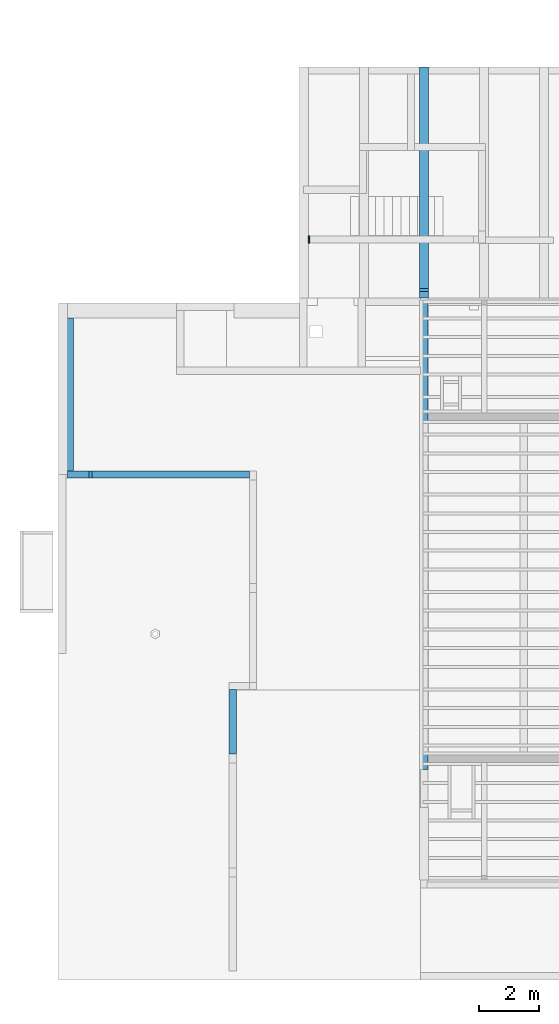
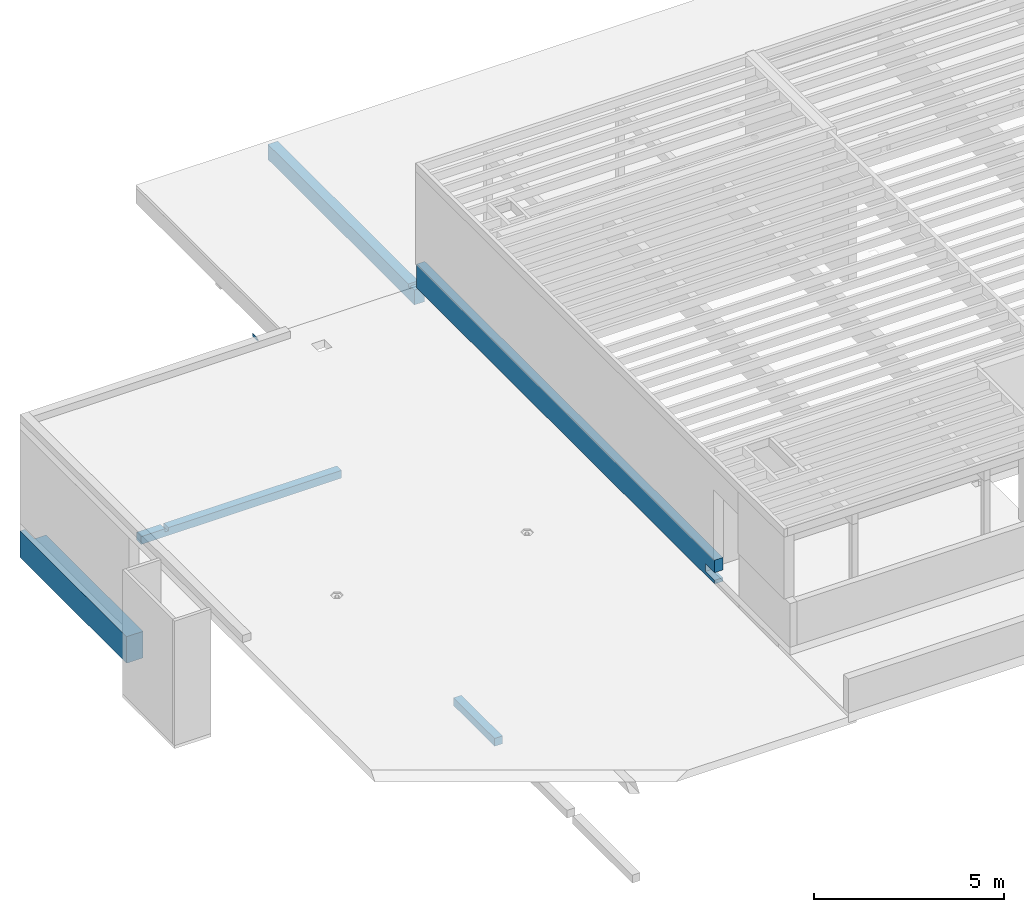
# One storey, part 6 of 14: 6 beams.
"""IFC2X3 building model written with IfcOpenShell, lengths in metres."""

from ifc_helpers import new_model, entity, si_unit, converted_unit, direction, frame, frame_2d, origin, place, context, subcontext, project, spatial, polyline, circle_curve, parameter, trimmed, segment, composite_curve, outline, extrude, faceted_brep, material, type_object, element, save


model = new_model("IFC2X3")

# Units and contexts
model_context = context("Model", 3, precision=1e-05, world=frame((30.086303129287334, 2.687674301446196, 462.0)), true_north=direction((0.19008937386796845, 0.9817667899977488)))
body_context = subcontext(model_context, "Body", "Model", "MODEL_VIEW")
ifc_project = project(units=[si_unit("LENGTHUNIT", "METRE"), si_unit("AREAUNIT", "SQUARE_METRE"), converted_unit("PLANEANGLEUNIT", "DEGREE", entity("IfcPlaneAngleMeasure", 0.017453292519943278), si_unit("PLANEANGLEUNIT", "RADIAN"), dimensions=[0, 0, 0, 0, 0, 0, 0]), si_unit("VOLUMEUNIT", "CUBIC_METRE")], contexts=[model_context])

# Site, building, storey
site_placement = place(None, origin())
site = spatial("IfcSite", under=ifc_project, at=site_placement, Name="Default", CompositionType="ELEMENT")
building_placement = place(site_placement, origin())
building = spatial("IfcBuilding", under=site, at=building_placement, CompositionType="ELEMENT")
storey_placement = place(building_placement, origin())
storey = spatial("IfcBuildingStorey", under=building, at=storey_placement, Name="FB_E00_OKFB", CompositionType="ELEMENT", Elevation=0.0)

# Beams
ifc_material_1 = material(Name="WS_CONCRETE_REINFORCED")
beam_type_1 = type_object("IfcBeamType", Name="WS_FDN_REC:FDN_REC_500x1100", PredefinedType="BEAM")
beam_1_placement = place(storey_placement, frame((37.9053379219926, -6.9246533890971, -0.32000000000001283), z_axis=(0.0, 0.0, 1.0), x_axis=(0.0, 1.0, 0.0)))
element("IfcBeam", 1, at=beam_1_placement, inside=storey, type_object=beam_type_1, material=ifc_material_1, Name="WS_FDN_REC:FDN_REC_500x1100", ObjectType="WS_FDN_REC:FDN_REC_500x1100", context=body_context, shape_type="Brep", body=[
    faceted_brep([(0.0, -0.5000000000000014, 0.8500000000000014), (0.0, -0.5000000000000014, 0.0), (5.095005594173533, -0.500000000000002, 0.0), (5.095005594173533, -0.500000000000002, 0.8500000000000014), (0.0, 0.0, 0.0), (5.595005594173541, 0.0, 0.0), (5.595005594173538, -0.14999999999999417, 0.0), (5.095005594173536, -0.14999999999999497, 0.0), (0.0, 0.0, 0.8500000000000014), (5.595005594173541, 0.0, 0.8500000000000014), (5.095005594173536, -0.14999999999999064, 0.8500000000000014), (5.595005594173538, -0.14999999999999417, 0.8500000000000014)], [[[0, 1, 2, 3]], [[1, 4, 5, 6, 7, 2]], [[8, 9, 5, 4]], [[1, 0, 8, 4]], [[8, 0, 3, 10, 11, 9]], [[5, 9, 11, 6]], [[10, 7, 6, 11]], [[7, 10, 3, 2]]]),
])
ifc_material_2 = material(Name="WS_TIMBER_GLT_0°")
beam_type_2 = type_object("IfcBeamType", Name="WS_TBM_GLT:TBM_GLT_300/480", PredefinedType="BEAM")
beam_2_placement = place(storey_placement, frame((49.955337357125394, -1.1696478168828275, 3.455), z_axis=(0.0, 0.0, 1.0), x_axis=(0.0, -1.0, 0.0)))
element("IfcBeam", 2, at=beam_2_placement, inside=storey, type_object=beam_type_2, material=ifc_material_2, Name="WS_TBM_GLT:TBM_GLT_300/480", ObjectType="WS_TBM_GLT:TBM_GLT_300/480", context=body_context, shape_type="Brep", body=[
    faceted_brep([(-7.699999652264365, 0.30000000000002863, 0.0), (-7.699999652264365, 0.0, 0.0), (-7.699999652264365, 0.0, 0.4799999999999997), (-7.699999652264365, 0.30000000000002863, 0.4799999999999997), (0.0, 0.3000000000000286, 0.0), (0.0, 0.3000000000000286, 0.4799999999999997), (0.0, 0.0, 0.4799999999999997), (0.0, 0.0, 0.0), (-0.3150000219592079, 0.0, 0.4799999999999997), (-0.31500002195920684, 0.30000000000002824, 0.48000000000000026), (-0.2150000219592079, 0.0, 0.48000000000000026), (-0.2150000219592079, 0.0, 0.3799999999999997), (-0.3150000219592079, 0.0, 0.3799999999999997), (-0.3150000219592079, 0.30000000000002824, 0.3799999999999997), (-0.2150000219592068, 0.30000000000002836, 0.3799999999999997), (-0.2150000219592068, 0.30000000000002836, 0.48000000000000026)], [[[0, 1, 2, 3]], [[4, 5, 6, 7]], [[3, 2, 8, 9]], [[1, 0, 4, 7]], [[2, 1, 7, 6, 10, 11, 12, 8]], [[0, 3, 9, 13, 14, 15, 5, 4]], [[12, 13, 9, 8]], [[13, 12, 11, 14]], [[14, 11, 10, 15]], [[6, 5, 15, 10]]]),
])
beam_type_3 = type_object("IfcBeamType", Name="WS_CBM_REC:CBM_REC_240x500", PredefinedType="BEAM")
beam_3_placement = place(storey_placement, frame((38.205337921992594, -7.174653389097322, 3.5349999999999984), z_axis=(0.0, 0.0, 1.0), x_axis=(-1.0, 0.0, 0.0)))
element("IfcBeam", 3, at=beam_3_placement, inside=storey, type_object=beam_type_3, material=ifc_material_1, Name="WS_CBM_REC:CBM_REC_240x500", ObjectType="WS_CBM_REC:CBM_REC_240x500", context=body_context, shape_type="Brep", body=[
    faceted_brep([(-6.074999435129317, 0.0, 0.25000000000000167), (-0.8199999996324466, 0.0, 0.2500000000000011), (-0.8199999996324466, 0.0, 0.1500000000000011), (-0.7199999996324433, 0.0, 0.1500000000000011), (-0.7199999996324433, 0.0, 0.25000000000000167), (0.0, 0.0, 0.25000000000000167), (0.0, 0.0, 0.0), (-6.074999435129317, 0.0, 0.0), (-6.074999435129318, -0.24000000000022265, 0.0), (0.0, -0.24000000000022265, 0.0), (-0.8199999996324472, -0.24000000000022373, 0.25000000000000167), (-6.074999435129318, -0.24000000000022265, 0.25000000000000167), (0.0, -0.24000000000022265, 0.25000000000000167), (-0.7199999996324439, -0.24000000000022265, 0.2500000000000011), (-0.7199999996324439, -0.24000000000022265, 0.1500000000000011), (-0.8199999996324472, -0.24000000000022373, 0.1500000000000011)], [[[0, 1, 2, 3, 4, 5, 6, 7]], [[8, 7, 6, 9]], [[10, 11, 8, 9, 12, 13, 14, 15]], [[7, 8, 11, 0]], [[1, 0, 11, 10]], [[6, 5, 12, 9]], [[2, 15, 14, 3]], [[15, 2, 1, 10]], [[3, 14, 13, 4]], [[4, 13, 12, 5]]]),
])
beam_type_4 = type_object("IfcBeamType", Name="WS_CBM_UPST_REC:CBM_UPST_REC_250x1015", PredefinedType="BEAM")
beam_4_placement = place(storey_placement, frame((49.98033735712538, -16.887008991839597, 4.035), z_axis=(0.0, 0.0, 1.0), x_axis=(0.0, -1.0, 0.0)))
element("IfcBeam", 4, at=beam_4_placement, inside=storey, type_object=beam_type_4, material=ifc_material_1, Name="WS_CBM_UPST_REC:CBM_UPST_REC_250x1015", ObjectType="WS_CBM_UPST_REC:CBM_UPST_REC_250x1015", context=body_context, shape_type="Brep", body=[
    faceted_brep([(-15.652406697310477, 7.880417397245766e-08, 0.7649999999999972), (-15.652406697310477, 0.2500000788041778, 0.7649999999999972), (-15.652406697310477, 0.2500000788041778, 0.0), (-15.652406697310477, 7.880417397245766e-08, 0.0), (0.0, 7.880417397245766e-08, 0.7649999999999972), (0.0, 0.2500000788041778, 0.7649999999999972), (0.0, 7.880417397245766e-08, 0.0), (0.0, 7.880417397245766e-08, 0.11499999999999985), (-0.47736055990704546, 7.880417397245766e-08, 0.11499999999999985), (-0.47736055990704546, 7.880417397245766e-08, 0.3649999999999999), (0.0, 7.880417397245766e-08, 0.3649999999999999), (0.0, 0.2500000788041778, 0.3649999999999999), (-0.47736055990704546, 0.2500000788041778, 0.3649999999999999), (-0.47736055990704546, 0.2500000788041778, 0.11499999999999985), (-0.227360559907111, 0.2500000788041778, 0.11499999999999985), (0.0, 0.2500000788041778, 0.11499999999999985), (0.0, 0.2500000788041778, 0.0), (-11.627360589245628, 0.2500000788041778, 0.0), (-0.47736055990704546, 0.0, 0.3649999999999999), (-0.47736055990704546, 0.0, 0.11499999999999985)], [[[0, 1, 2, 3]], [[1, 0, 4, 5]], [[4, 0, 3, 6, 7, 8, 9, 10]], [[1, 5, 11, 12, 13, 14, 15, 16, 17, 2]], [[3, 2, 17, 16, 6]], [[5, 4, 10, 11]], [[13, 8, 7, 15, 14]], [[18, 12, 11, 10]], [[19, 13, 12, 9]], [[6, 16, 15, 7]]]),
])
beam_type_5 = type_object("IfcBeamType", Name="WS_CBM_REC:CBM_REC_240x250", PredefinedType="BEAM")
beam_5_placement = place(storey_placement, frame((43.60130499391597, -16.384648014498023, 0.759999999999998), z_axis=(0.0, 0.0, 1.0), x_axis=(0.0, -1.0, 0.0)))
element("IfcBeam", 5, at=beam_5_placement, inside=storey, type_object=beam_type_5, material=ifc_material_1, Name="WS_CBM_REC:CBM_REC_240x250", ObjectType="WS_CBM_REC:CBM_REC_240x250", context=body_context, shape_type="Brep", body=[
    faceted_brep([(0.0, 0.0, 0.25), (0.0, 0.24000000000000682, 0.25), (-2.1599992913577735, 0.2400000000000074, 0.25), (-2.1599992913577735, 0.0, 0.25), (0.0, 0.0, 0.0), (-2.1599992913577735, 0.0, 0.01999999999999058), (-2.149999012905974, 0.0, 0.01999999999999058), (-2.149999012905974, 0.0, 0.0), (0.0, 0.24000000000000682, 0.0), (-2.149999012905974, 0.24000000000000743, 0.0), (-2.149999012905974, 0.24000000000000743, 0.01999999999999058), (-2.1599992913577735, 0.2400000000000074, 0.01999999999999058)], [[[0, 1, 2, 3]], [[4, 0, 3, 5, 6, 7]], [[8, 4, 7, 9]], [[1, 8, 9, 10, 11, 2]], [[1, 0, 4, 8]], [[3, 2, 11, 5]], [[10, 6, 5, 11]], [[6, 10, 9, 7]]]),
])
ifc_material_3 = material(Name="WS_STEEL")
beam_type_6 = type_object("IfcBeamType", Name="WS_SBM_L:SBM_L_100x50x6", PredefinedType="BEAM")
beam_6_placement = place(storey_placement, frame((46.24595026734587, 0.6653464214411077, 2.599999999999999), z_axis=(0.0, 0.0, 1.0), x_axis=(-4.85795380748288e-05, 1.0, 0.0)))
element("IfcBeam", 6, at=beam_6_placement, inside=storey, type_object=beam_type_6, material=ifc_material_3, Name="WS_SBM_L:SBM_L_100x50x6", ObjectType="WS_SBM_L:SBM_L_100x50x6", context=body_context, shape_type="SweptSolid", body=[
    extrude(outline(composite_curve([segment(polyline([(0.03194444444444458, -0.0307222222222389), (0.035944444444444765, -0.0307222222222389)]), True, "CONTINUOUS"), segment(polyline([(0.035944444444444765, -0.0307222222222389), (0.035944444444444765, 0.01927777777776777)]), True, "CONTINUOUS"), segment(polyline([(0.035944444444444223, 0.01927777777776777), (-0.0640555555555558, 0.01927777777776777)]), True, "CONTINUOUS"), segment(polyline([(-0.0640555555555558, 0.019277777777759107), (-0.0640555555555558, 0.01527777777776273)]), True, "CONTINUOUS"), segment(trimmed(circle_curve(frame_2d((-0.06205555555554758, 0.015277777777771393), x_axis=(-1.0, 0.0)), 0.002000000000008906), [parameter(0.0)], [parameter(89.99999999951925)], True, "PARAMETER"), True, "CONTINUOUS"), segment(polyline([(-0.06205555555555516, 0.013277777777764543), (0.026444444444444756, 0.013277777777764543)]), True, "CONTINUOUS"), segment(trimmed(circle_curve(frame_2d((0.02644444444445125, 0.009777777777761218), x_axis=(0.0, 1.0)), 0.003499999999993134), [parameter(269.99999999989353)], [parameter(0.0)], True, "PARAMETER"), False, "CONTINUOUS"), segment(polyline([(0.029944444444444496, 0.009777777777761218), (0.029944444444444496, -0.02872222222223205)]), True, "CONTINUOUS"), segment(trimmed(circle_curve(frame_2d((0.03194444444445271, -0.02872222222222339), x_axis=(-1.0, 0.0)), 0.0020000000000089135), [parameter(0.0)], [parameter(89.99999999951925)], True, "PARAMETER"), True, "CONTINUOUS")], self_intersect=False)), frame((0.0, -0.018777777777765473, -0.07005555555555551), z_axis=(1.0, 0.0, 0.0), x_axis=(0.0, 0.0, -1.0)), (0.0, 0.0, 1.0), 0.24000494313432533),
])

save(model, "model.ifc")
